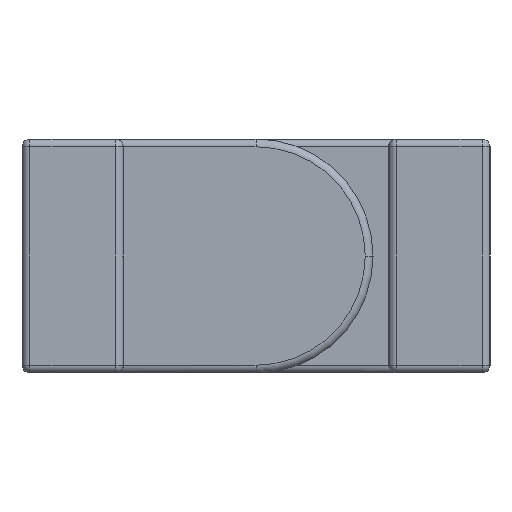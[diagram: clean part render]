
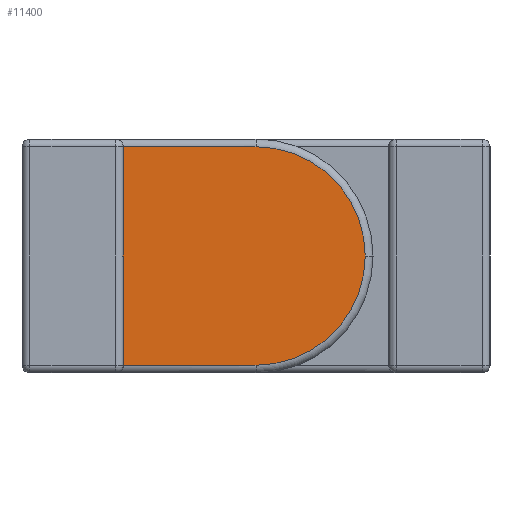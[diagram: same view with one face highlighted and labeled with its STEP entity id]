
A CAD part, left-side view. The second image highlights one B-rep face of the part: STEP entity #11400.
In plain terms, the highlighted planar face has unit normal (-1, 0, 0) as drawn and (1, 0, 0) by its records, which use the part's own axes.
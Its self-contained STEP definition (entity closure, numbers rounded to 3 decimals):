
#719 = EDGE_CURVE ( 'NONE', #2563, #36271, #17141, .T. ) ;
#2036 = DIRECTION ( 'NONE',  ( 0., 1., 0. ) ) ;
#2235 = FACE_OUTER_BOUND ( 'NONE', #6495, .T. ) ;
#2563 = VERTEX_POINT ( 'NONE', #26227 ) ;
#3235 = VERTEX_POINT ( 'NONE', #12124 ) ;
#3636 = CIRCLE ( 'NONE', #14191, 7. ) ;
#5326 = DIRECTION ( 'NONE',  ( 0., -1., 0. ) ) ;
#6473 = VECTOR ( 'NONE', #2036, 1000. ) ;
#6495 = EDGE_LOOP ( 'NONE', ( #19371, #35702, #10608, #35380, #30940 ) ) ;
#7280 = CARTESIAN_POINT ( 'NONE',  ( 18.5, 15., -7. ) ) ;
#7669 = EDGE_CURVE ( 'NONE', #36271, #14242, #3636, .T. ) ;
#10123 = DIRECTION ( 'NONE',  ( 0., -1., 0. ) ) ;
#10549 = CARTESIAN_POINT ( 'NONE',  ( 18.5, 15., -7. ) ) ;
#10608 = ORIENTED_EDGE ( 'NONE', *, *, #7669, .T. ) ;
#11400 = ADVANCED_FACE ( 'NONE', ( #2235 ), #22959, .F. ) ;
#11535 = EDGE_CURVE ( 'NONE', #23802, #3235, #30644, .T. ) ;
#12124 = CARTESIAN_POINT ( 'NONE',  ( 18.5, 6.5, 7. ) ) ;
#14191 = AXIS2_PLACEMENT_3D ( 'NONE', #15311, #27109, #14924 ) ;
#14242 = VERTEX_POINT ( 'NONE', #36094 ) ;
#14488 = CARTESIAN_POINT ( 'NONE',  ( 18.5, 15., 7. ) ) ;
#14728 = VECTOR ( 'NONE', #10123, 1000. ) ;
#14924 = DIRECTION ( 'NONE',  ( 0., -1., 0. ) ) ;
#15311 = CARTESIAN_POINT ( 'NONE',  ( 18.5, 15., 0. ) ) ;
#17141 = LINE ( 'NONE', #10549, #6473 ) ;
#18198 = CARTESIAN_POINT ( 'NONE',  ( 18.5, 6.5, -7.5 ) ) ;
#19371 = ORIENTED_EDGE ( 'NONE', *, *, #34840, .F. ) ;
#22438 = CIRCLE ( 'NONE', #24893, 7. ) ;
#22959 = PLANE ( 'NONE',  #27689 ) ;
#23802 = VERTEX_POINT ( 'NONE', #14488 ) ;
#24893 = AXIS2_PLACEMENT_3D ( 'NONE', #27984, #25483, #33581 ) ;
#25483 = DIRECTION ( 'NONE',  ( 1., 0., 0. ) ) ;
#26227 = CARTESIAN_POINT ( 'NONE',  ( 18.5, 6.5, -7. ) ) ;
#27093 = LINE ( 'NONE', #18198, #35440 ) ;
#27109 = DIRECTION ( 'NONE',  ( 1., 0., 0. ) ) ;
#27689 = AXIS2_PLACEMENT_3D ( 'NONE', #31854, #37473, #5326 ) ;
#27984 = CARTESIAN_POINT ( 'NONE',  ( 18.5, 15., 0. ) ) ;
#30644 = LINE ( 'NONE', #33346, #14728 ) ;
#30940 = ORIENTED_EDGE ( 'NONE', *, *, #11535, .T. ) ;
#31854 = CARTESIAN_POINT ( 'NONE',  ( 18.5, 22.5, -7.5 ) ) ;
#33061 = DIRECTION ( 'NONE',  ( 0., 0., 1. ) ) ;
#33346 = CARTESIAN_POINT ( 'NONE',  ( 18.5, 22.5, 7. ) ) ;
#33581 = DIRECTION ( 'NONE',  ( 0., -1., 0. ) ) ;
#34227 = EDGE_CURVE ( 'NONE', #14242, #23802, #22438, .T. ) ;
#34840 = EDGE_CURVE ( 'NONE', #2563, #3235, #27093, .T. ) ;
#35380 = ORIENTED_EDGE ( 'NONE', *, *, #34227, .T. ) ;
#35440 = VECTOR ( 'NONE', #33061, 1000. ) ;
#35702 = ORIENTED_EDGE ( 'NONE', *, *, #719, .T. ) ;
#36094 = CARTESIAN_POINT ( 'NONE',  ( 18.5, 22., 0. ) ) ;
#36271 = VERTEX_POINT ( 'NONE', #7280 ) ;
#37473 = DIRECTION ( 'NONE',  ( -1., 0., 0. ) ) ;
